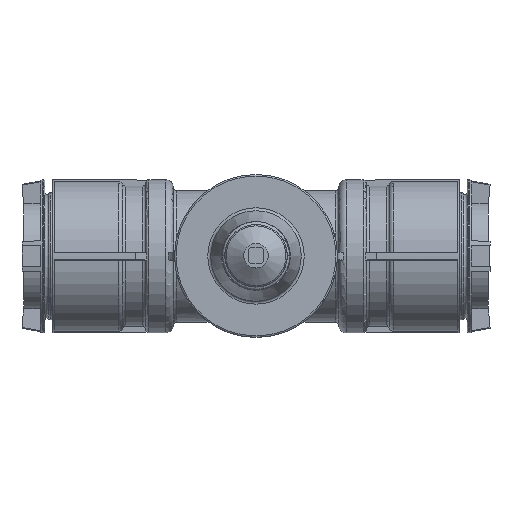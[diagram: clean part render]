
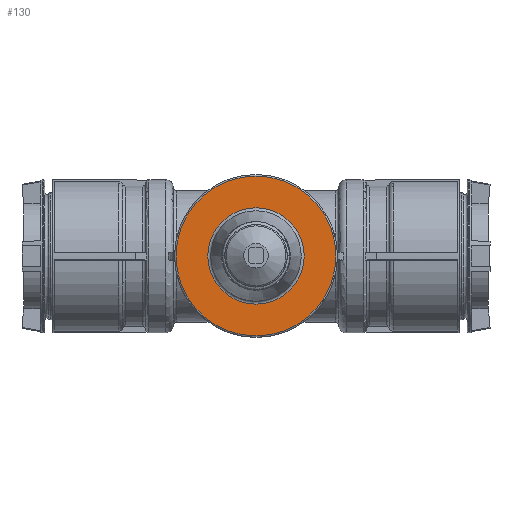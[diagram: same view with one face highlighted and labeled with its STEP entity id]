
A CAD part, top view. The second image highlights one B-rep face of the part: STEP entity #130.
In plain terms, the highlighted planar face has unit normal (0, 0, 1).
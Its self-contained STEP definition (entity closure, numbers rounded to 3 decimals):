
#130 = ADVANCED_FACE( '', ( #488, #489 ), #490, .F. );
#488 = FACE_BOUND( '', #1125, .T. );
#489 = FACE_OUTER_BOUND( '', #1126, .T. );
#490 = PLANE( '', #1127 );
#1125 = EDGE_LOOP( '', ( #2157 ) );
#1126 = EDGE_LOOP( '', ( #2158 ) );
#1127 = AXIS2_PLACEMENT_3D( '', #2159, #2160, #2161 );
#2157 = ORIENTED_EDGE( '', *, *, #4264, .F. );
#2158 = ORIENTED_EDGE( '', *, *, #4265, .T. );
#2159 = CARTESIAN_POINT( '', ( 52.27, 0., 128. ) );
#2160 = DIRECTION( '', ( 0., 0., -1. ) );
#2161 = DIRECTION( '', ( -1., 0., 0. ) );
#4264 = EDGE_CURVE( '', #5232, #5232, #5233, .T. );
#4265 = EDGE_CURVE( '', #5234, #5234, #5235, .T. );
#5232 = VERTEX_POINT( '', #8011 );
#5233 = CIRCLE( '', #8012, 31.508 );
#5234 = VERTEX_POINT( '', #8013 );
#5235 = CIRCLE( '', #8014, 52.27 );
#8011 = CARTESIAN_POINT( '', ( 31.508, 0., 128. ) );
#8012 = AXIS2_PLACEMENT_3D( '', #9970, #9971, #9972 );
#8013 = CARTESIAN_POINT( '', ( 52.27, 0., 128. ) );
#8014 = AXIS2_PLACEMENT_3D( '', #9973, #9974, #9975 );
#9970 = CARTESIAN_POINT( '', ( 0., 0., 128. ) );
#9971 = DIRECTION( '', ( 0., 0., 1. ) );
#9972 = DIRECTION( '', ( 1., 0., 0. ) );
#9973 = CARTESIAN_POINT( '', ( 0., 0., 128. ) );
#9974 = DIRECTION( '', ( 0., 0., 1. ) );
#9975 = DIRECTION( '', ( 1., 0., 0. ) );
